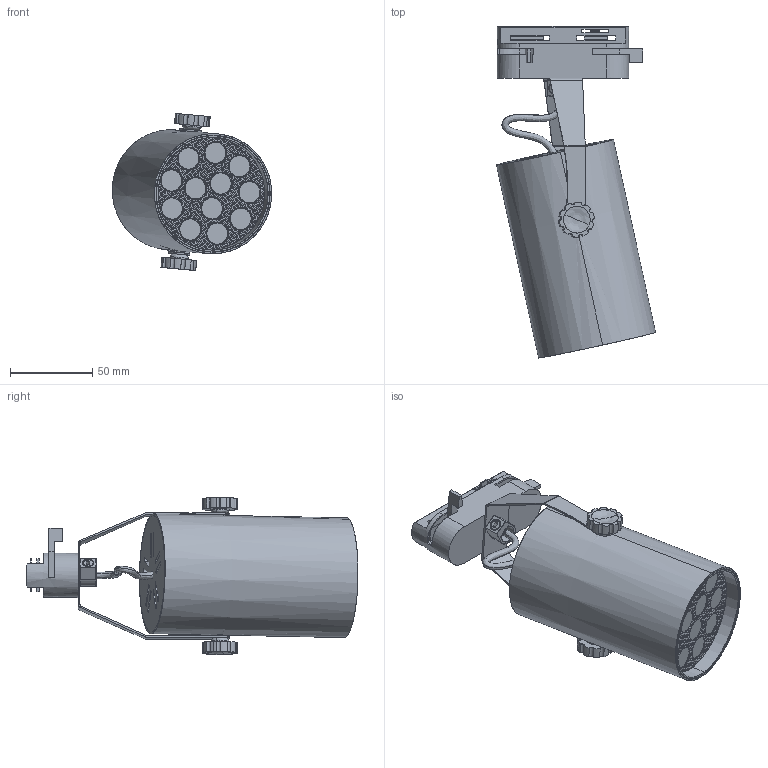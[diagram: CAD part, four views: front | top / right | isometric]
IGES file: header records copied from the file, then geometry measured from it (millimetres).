
Start section: SolidWorks IGES file using analytic representation for surfaces
Global section: file name: F:\GABRYSIA\MODELE 3D\PROFILE-STORE-PRO-LED-8322-8320-WWW\PROFILE-STORE-PRO-LED-8322-8320-WWW\PROFILE-STORE-PRO-LED-8322-8320.IGS; native system: SolidWorks 2017; preprocessor: SolidWorks 2017; author: Togambi; date: 200916.143951; units: millimetre
Bounding box: 96.92 x 201.79 x 95.58 mm (x, y, z)
Surface area: 118354 mm2 (no closed solid volume)
Topology: 0 solids, 0 shells, 2744 faces, 16714 edges, 16707 vertices
Faces by surface type: bspline 2473, revolution 271
